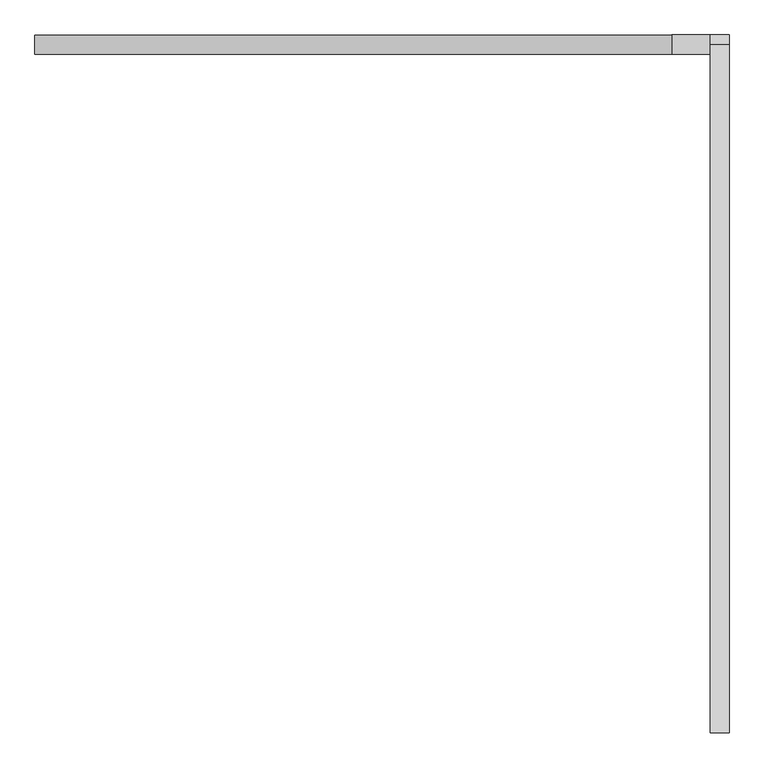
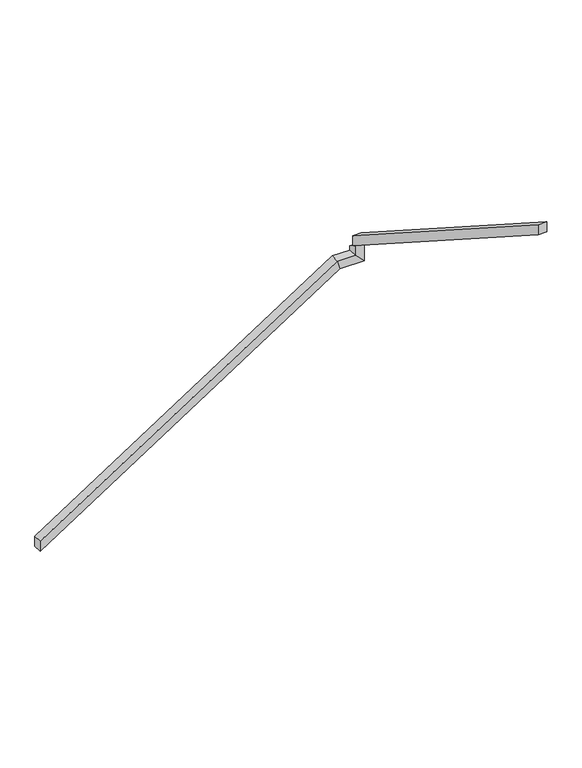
"""IFC4 building model written with IfcOpenShell, lengths in millimetres: railing geometry, 900mm 方管."""

import ifcopenshell
import ifcopenshell.guid

model = None  # the IFC model being written
_history = None  # IfcOwnerHistory: only IFC2X3 demands one
_inside = {}  # id of a spatial element -> (the spatial element, [elements in it])
_under = {}  # id of a project, library or spatial element -> (it, [spatial elements below it])
_declared = {}  # id of a project -> (the project, [libraries it declares])
_typed = {}  # id of a type object -> (the type object, [elements of that type])
_made_of = {}  # id of a material, layer set ... -> (it, [elements and type objects made of it])


def new_model(schema):
    """Start an empty IFC model of exactly this schema.

    Asked for "IFC4X3", IfcOpenShell would pick the latest addendum, in which some entities
    have other attributes; the version numbers below select the first issue.
    IFC2X3 requires an IfcOwnerHistory on every rooted entity: one is made here for all.
    """
    global model, _history
    if schema == "IFC4X3":
        model = ifcopenshell.file(schema_version=(4, 3, 0, 0))
    else:
        model = ifcopenshell.file(schema=schema)
    _inside.clear()
    _under.clear()
    _declared.clear()
    _typed.clear()
    _made_of.clear()
    _history = None
    if model.schema == "IFC2X3":
        org = make("IfcOrganization", Name="unknown")
        user = make(
            "IfcPersonAndOrganization",
            ThePerson=make("IfcPerson", FamilyName="unknown"),
            TheOrganization=org,
        )
        app = make(
            "IfcApplication",
            ApplicationDeveloper=org,
            Version="unknown",
            ApplicationFullName="unknown",
            ApplicationIdentifier="unknown",
        )
        _history = make(
            "IfcOwnerHistory",
            OwningUser=user,
            OwningApplication=app,
            ChangeAction="ADDED",
            CreationDate=0,
        )
    return model


def make(cls, **values):
    """One entity of the class cls with the attributes given. An attribute that is None is left unset."""
    return model.create_entity(
        cls, **{name: value for name, value in values.items() if value is not None}
    )


def rooted(cls, **values):
    """An entity with a GlobalId (a new one), such as an element, a storey or a relation."""
    return make(cls, GlobalId=ifcopenshell.guid.new(), OwnerHistory=_history, **values)


def si_unit(unit_type, name, prefix=None):
    """IfcSIUnit, for example si_unit("LENGTHUNIT", "METRE", prefix="MILLI")."""
    return make("IfcSIUnit", UnitType=unit_type, Prefix=prefix, Name=name)


def assignment(units):
    """IfcUnitAssignment: the units of a project."""
    return None if units is None else make("IfcUnitAssignment", Units=units)


def point(xyz):
    """IfcCartesianPoint."""
    return None if xyz is None else make("IfcCartesianPoint", Coordinates=xyz)


def direction(xyz):
    """IfcDirection."""
    return None if xyz is None else make("IfcDirection", DirectionRatios=xyz)


def frame(location, z_axis=None, x_axis=None):
    """IfcAxis2Placement3D, a coordinate frame: its origin and axes. An axis left out is left unset."""
    return make(
        "IfcAxis2Placement3D",
        Location=point(location),
        Axis=direction(z_axis),
        RefDirection=direction(x_axis),
    )


def origin():
    """The frame at (0, 0, 0) with its axes left unset."""
    return frame((0.0, 0.0, 0.0))


def place(relative_to, where):
    """IfcLocalPlacement: puts the frame where relative to a parent placement (None: the world)."""
    return make(
        "IfcLocalPlacement", PlacementRelTo=relative_to, RelativePlacement=where
    )


def context(
    kind, dimensions, precision=None, world=None, true_north=None, identifier=None
):
    """IfcGeometricRepresentationContext, for example the 3D "Model" context."""
    return make(
        "IfcGeometricRepresentationContext",
        ContextIdentifier=identifier,
        ContextType=kind,
        CoordinateSpaceDimension=dimensions,
        Precision=precision,
        WorldCoordinateSystem=world,
        TrueNorth=true_north,
    )


def project(units=None, contexts=None):
    """IfcProject with its units and contexts."""
    return rooted(
        "IfcProject",
        Name="project",
        RepresentationContexts=contexts,
        UnitsInContext=assignment(units),
    )


def spatial(cls, under=None, at=None, **own):
    """A site, building, storey or space (cls), placed at a placement, below another one or the project."""
    s = rooted(cls, ObjectPlacement=at, **own)
    if under is not None:
        _under.setdefault(under.id(), (under, []))[1].append(s)
    return s


def faces_of(points, faces, orient=None, outer=None):
    """IfcFace entities. A face is a list of loops; a loop is a list of indices into points, from 0.

    orient and outer hold one flag for each loop. By default every Orientation is true, the
    first loop of a face is its IfcFaceOuterBound and the others are IfcFaceBound.
    """
    made = []
    for i, loops in enumerate(faces):
        bounds = []
        for j, loop in enumerate(loops):
            is_outer = j == 0 if outer is None else outer[i][j]
            bounds.append(
                make(
                    "IfcFaceOuterBound" if is_outer else "IfcFaceBound",
                    Bound=make("IfcPolyLoop", Polygon=[points[k] for k in loop]),
                    Orientation=True if orient is None else orient[i][j],
                )
            )
        made.append(make("IfcFace", Bounds=bounds))
    return made


def faceted_brep(points, faces, orient=None, outer=None, voids=None):
    """IfcFacetedBrep: a solid bounded by flat faces; with voids (closed shells), ...WithVoids."""
    shared = [point(p) for p in points]
    hull = make("IfcClosedShell", CfsFaces=faces_of(shared, faces, orient, outer))
    if voids is None:
        return make("IfcFacetedBrep", Outer=hull)
    return make(
        "IfcFacetedBrepWithVoids",
        Outer=hull,
        Voids=[
            make(cls, CfsFaces=faces_of(shared, fs, o, b)) for cls, fs, o, b in voids
        ],
    )


def shape(context_of_items, identifier, shape_type, items):
    """IfcShapeRepresentation: the items that make up one representation, for example the "Body"."""
    return make(
        "IfcShapeRepresentation",
        ContextOfItems=context_of_items,
        RepresentationIdentifier=identifier,
        RepresentationType=shape_type,
        Items=items,
    )


def source(mapping_origin, context_of_items, identifier, shape_type, items):
    """IfcRepresentationMap: a shape defined once, which mapped items show again and again."""
    return make(
        "IfcRepresentationMap",
        MappingOrigin=mapping_origin,
        MappedRepresentation=shape(context_of_items, identifier, shape_type, items),
    )


def transform(
    local_origin,
    x_axis=None,
    y_axis=None,
    z_axis=None,
    scale=None,
    scale2=None,
    scale3=None,
    uniform=True,
):
    """IfcCartesianTransformationOperator3D, or its non-uniform kind. x_axis, y_axis, z_axis: its Axis1, 2, 3."""
    if uniform:
        return make(
            "IfcCartesianTransformationOperator3D",
            Axis1=direction(x_axis),
            Axis2=direction(y_axis),
            LocalOrigin=point(local_origin),
            Scale=scale,
            Axis3=direction(z_axis),
        )
    return make(
        "IfcCartesianTransformationOperator3DnonUniform",
        Axis1=direction(x_axis),
        Axis2=direction(y_axis),
        LocalOrigin=point(local_origin),
        Scale=scale,
        Axis3=direction(z_axis),
        Scale2=scale2,
        Scale3=scale3,
    )


def mapped(mapping_source, mapping_target):
    """IfcMappedItem: shows the shape of a source again, moved by a transform."""
    return make(
        "IfcMappedItem", MappingSource=mapping_source, MappingTarget=mapping_target
    )


def made_of(thing, what):
    """Note that an element or type object is made of a material, layer set ...; save() writes the relation."""
    if what is not None:
        _made_of.setdefault(what.id(), (what, []))[1].append(thing)
    return thing


def element(
    cls,
    number,
    at=None,
    inside=None,
    cuts=None,
    type_object=None,
    material=None,
    context=None,
    identifier="Body",
    shape_type=None,
    held_by="IfcProductDefinitionShape",
    body=None,
    shapes=None,
    **own,
):
    """One element of the class cls, such as IfcWall. Its Tag is "e" and its number.

    at: its placement. inside: the storey or other place that contains it. cuts: it is an
    opening in that element (IfcRelVoidsElement). A single representation is given by context,
    identifier, shape_type and body (its items); several are given by shapes. held_by: the class
    of the entity that holds the representations. save() writes the other relations.
    """
    e = rooted(cls, Tag="e%d" % number, ObjectPlacement=at, **own)
    if body is not None:
        shapes = [shape(context, identifier, shape_type, body)]
    if shapes is not None:
        e.Representation = make(held_by, Representations=shapes)
    if inside is not None:
        _inside.setdefault(inside.id(), (inside, []))[1].append(e)
    if cuts is not None:
        rooted(
            "IfcRelVoidsElement", RelatingBuildingElement=cuts, RelatedOpeningElement=e
        )
    if type_object is not None:
        _typed.setdefault(type_object.id(), (type_object, []))[1].append(e)
    return made_of(e, material)


def aggregate(whole, parts):
    """IfcRelAggregates: a whole, such as a stair, and the parts it consists of."""
    return rooted("IfcRelAggregates", RelatingObject=whole, RelatedObjects=parts)


def save(model, path):
    """Write the relations noted so far, then the file.

    IfcRelAggregates (storeys below a building ...), IfcRelContainedInSpatialStructure (elements
    in a storey), IfcRelDefinesByType, IfcRelAssociatesMaterial and IfcRelDeclares: one each for
    every whole, place, type object, material and project.
    """
    for whole, parts in _under.values():
        aggregate(whole, parts)
    for where, things in _inside.values():
        rooted(
            "IfcRelContainedInSpatialStructure",
            RelatedElements=things,
            RelatingStructure=where,
        )
    for kind, things in _typed.values():
        rooted("IfcRelDefinesByType", RelatedObjects=things, RelatingType=kind)
    for what, things in _made_of.values():
        rooted("IfcRelAssociatesMaterial", RelatedObjects=things, RelatingMaterial=what)
    for by, libraries in _declared.values():
        rooted("IfcRelDeclares", RelatingContext=by, RelatedDefinitions=libraries)
    model.write(path)


def railing_ebe26a48(model_context):
    return source(origin(), model_context, "Body", "Brep", [
        faceted_brep([(-661.0698346, 3721.1832564, 1080.0), (-661.0698346, 3771.1832564, 1080.0), (-661.0698346, 3771.1832564, 1020.4542426), (-661.0698346, 3721.1832564, 1020.4542426), (1008.8313871, 3721.1832564, 2160.0), (1008.8313871, 3771.1832564, 2160.0), (1023.5910833, 3771.1832564, 2110.0), (1023.5910833, 3721.1832564, 2110.0), (1108.8313871, 3721.1832564, 2160.0), (1108.8313871, 3771.1832564, 2160.0), (1158.8313871, 3771.1832564, 2110.0), (1158.8313871, 3721.1832564, 2110.0), (1108.8313871, 3721.1832564, 2216.2738679), (1158.8313871, 3721.1832564, 2216.2738679), (1158.8313871, 3771.1832564, 2184.1310108), (1108.8313871, 3771.1832564, 2184.1310108)], [[[0, 1, 2, 3]], [[1, 0, 4, 5]], [[2, 1, 5, 6]], [[3, 2, 6, 7]], [[0, 3, 7, 4]], [[5, 4, 8, 9]], [[6, 5, 9, 10]], [[7, 6, 10, 11]], [[4, 7, 11, 8]], [[12, 13, 14, 15]], [[9, 8, 12, 15]], [[10, 9, 15, 14]], [[11, 10, 14, 13]], [[8, 11, 13, 12]]]),
        faceted_brep([(1108.8313871, 3746.1832564, 2259.6428571), (1158.8313871, 3746.1832564, 2259.6428571), (1158.8313871, 3746.1832564, 2200.2024394), (1108.8313871, 3746.1832564, 2200.2024394), (1108.8313871, 1941.1832564, 3420.0), (1108.8313871, 1941.1832564, 3360.5595822), (1158.8313871, 1941.1832564, 3360.5595822), (1158.8313871, 1941.1832564, 3420.0)], [[[0, 1, 2, 3]], [[4, 5, 6, 7]], [[1, 0, 4, 7]], [[2, 1, 7, 6]], [[3, 2, 6, 5]], [[0, 3, 5, 4]]]),
    ])


if __name__ == "__main__":
    model = new_model("IFC4")
    model_context = context("Model", 3, world=origin())
    ifc_project = project(units=[si_unit("LENGTHUNIT", "METRE", prefix="MILLI")], contexts=[model_context])
    site = spatial("IfcSite", under=ifc_project)
    building = spatial("IfcBuilding", under=site)
    placement = place(None, origin())
    railing_shape = railing_ebe26a48(model_context)
    element("IfcRailing", 1, ObjectType="900mm 方管", at=placement, inside=building, context=model_context, shape_type="MappedRepresentation", body=[
        mapped(railing_shape, transform((0.0, 0.0, 0.0), x_axis=(1.0, 0.0, 0.0), y_axis=(0.0, 1.0, 0.0), z_axis=(0.0, 0.0, 1.0))),
    ])
    save(model, "model.ifc")
